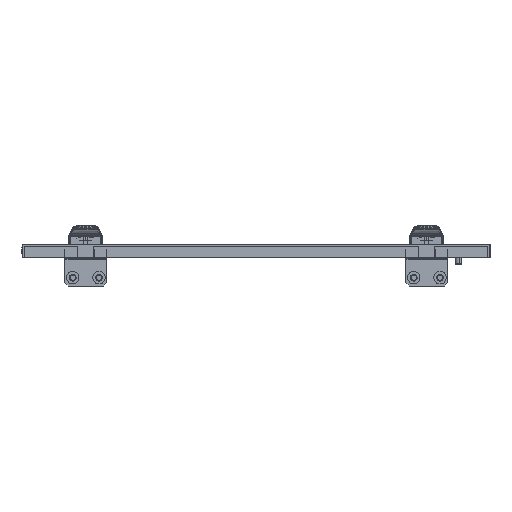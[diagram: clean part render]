
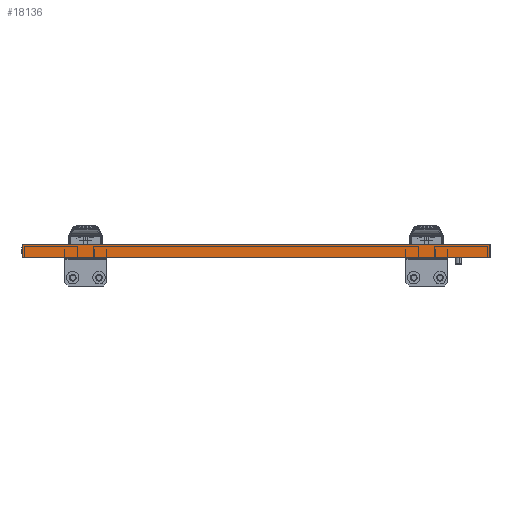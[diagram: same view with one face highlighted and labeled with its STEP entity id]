
A CAD part, left-side view. The second image highlights one B-rep face of the part: STEP entity #18136.
In plain terms, the highlighted planar face has unit normal (-1, 0, 0).
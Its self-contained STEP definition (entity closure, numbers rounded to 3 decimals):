
#326 = CARTESIAN_POINT ( 'NONE',  ( -524.77, -153.047, 1001.001 ) ) ;
#1087 = CARTESIAN_POINT ( 'NONE',  ( -524.77, -153.047, 998.163 ) ) ;
#1433 = FACE_OUTER_BOUND ( 'NONE', #18003, .T. ) ;
#2062 = EDGE_CURVE ( 'NONE', #7554, #12795, #12731, .T. ) ;
#2437 = ORIENTED_EDGE ( 'NONE', *, *, #20306, .T. ) ;
#3006 = DIRECTION ( 'NONE',  ( 0., 0., 1. ) ) ;
#3154 = ORIENTED_EDGE ( 'NONE', *, *, #14686, .T. ) ;
#3570 = VERTEX_POINT ( 'NONE', #1087 ) ;
#3982 = CARTESIAN_POINT ( 'NONE',  ( -524.77, 69.953, 998.163 ) ) ;
#4703 = CARTESIAN_POINT ( 'NONE',  ( -524.77, 292.953, 998.163 ) ) ;
#4789 = DIRECTION ( 'NONE',  ( 0., -1., 0. ) ) ;
#5036 = VECTOR ( 'NONE', #16727, 1000. ) ;
#5428 = ORIENTED_EDGE ( 'NONE', *, *, #20315, .F. ) ;
#7034 = ORIENTED_EDGE ( 'NONE', *, *, #2062, .T. ) ;
#7554 = VERTEX_POINT ( 'NONE', #8467 ) ;
#8278 = LINE ( 'NONE', #326, #20386 ) ;
#8467 = CARTESIAN_POINT ( 'NONE',  ( -524.77, 292.953, 985.663 ) ) ;
#10153 = LINE ( 'NONE', #3982, #5036 ) ;
#10938 = CARTESIAN_POINT ( 'NONE',  ( -524.77, 253.278, 996.163 ) ) ;
#12731 = LINE ( 'NONE', #19113, #14007 ) ;
#12795 = VERTEX_POINT ( 'NONE', #20199 ) ;
#13079 = DIRECTION ( 'NONE',  ( 0., 0., -1. ) ) ;
#13285 = VERTEX_POINT ( 'NONE', #4703 ) ;
#14007 = VECTOR ( 'NONE', #4789, 1000. ) ;
#14686 = EDGE_CURVE ( 'NONE', #13285, #7554, #19946, .T. ) ;
#15236 = CARTESIAN_POINT ( 'NONE',  ( -524.77, 292.953, 1001.001 ) ) ;
#15267 = AXIS2_PLACEMENT_3D ( 'NONE', #10938, #17323, #3006 ) ;
#15524 = VECTOR ( 'NONE', #18473, 1000. ) ;
#16727 = DIRECTION ( 'NONE',  ( 0., 1., 0. ) ) ;
#17323 = DIRECTION ( 'NONE',  ( -1., 0., 0. ) ) ;
#18003 = EDGE_LOOP ( 'NONE', ( #3154, #7034, #5428, #2437 ) ) ;
#18136 = ADVANCED_FACE ( 'NONE', ( #1433 ), #18883, .T. ) ;
#18473 = DIRECTION ( 'NONE',  ( 0., 0., -1. ) ) ;
#18883 = PLANE ( 'NONE',  #15267 ) ;
#19113 = CARTESIAN_POINT ( 'NONE',  ( -524.77, 253.278, 985.663 ) ) ;
#19946 = LINE ( 'NONE', #15236, #15524 ) ;
#20199 = CARTESIAN_POINT ( 'NONE',  ( -524.77, -153.047, 985.663 ) ) ;
#20306 = EDGE_CURVE ( 'NONE', #3570, #13285, #10153, .T. ) ;
#20315 = EDGE_CURVE ( 'NONE', #3570, #12795, #8278, .T. ) ;
#20386 = VECTOR ( 'NONE', #13079, 1000. ) ;
